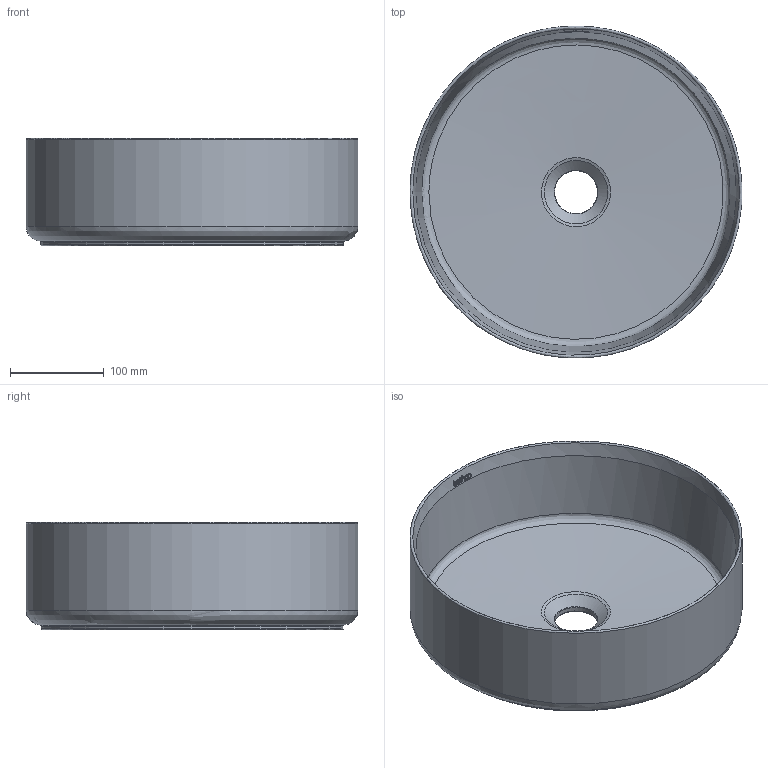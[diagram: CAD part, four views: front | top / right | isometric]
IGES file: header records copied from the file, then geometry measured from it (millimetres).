
Global section: file name: D:\Renovando Conceptos\Trabajos Varios\BathCo\47 Biblioteca Lavabos 3D\4119 Carnac Cru\4119_CARNAC_CRU.igs; native system: Rhinoceros ( Jan 23 2018 ); preprocessor: Trout Lake IGES 012 Jan 23 2018; date: 210107.115352; units: millimetre
Bounding box: 354.87 x 354.82 x 115 mm (x, y, z)
Surface area: 409498.3 mm2 (no closed solid volume)
Topology: 0 solids, 0 shells, 91 faces, 593 edges, 564 vertices
Faces by surface type: bspline 91
